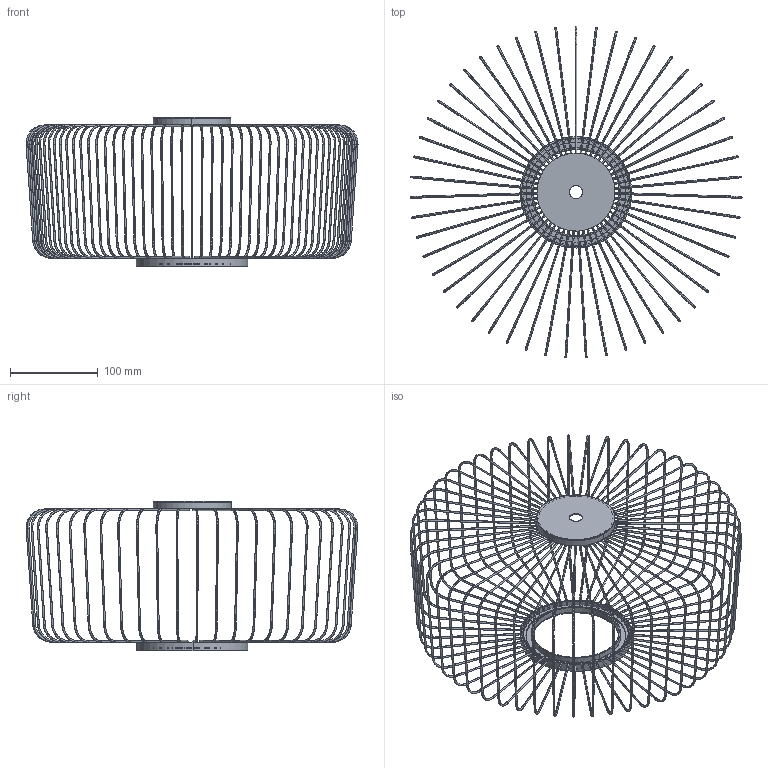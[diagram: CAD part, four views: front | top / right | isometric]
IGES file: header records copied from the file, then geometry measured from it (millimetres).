
Start section: SolidWorks IGES file using analytic representation for surfaces
Global section: file name: Z:\PRODUKT\Modele_3D_WWW\_KOLEKCJE_WWW\_CAMELEON\CAMELEON KENAI\CAMELEON-KENAI-C-12244\NL2500011780.IGS; native system: SolidWorks 2024; preprocessor: SolidWorks 2024; author: anna.bielnik; date: 260313.113612; units: millimetre
Bounding box: 378.68 x 378.5 x 170 mm (x, y, z)
Surface area: 180749.1 mm2 (no closed solid volume)
Topology: 0 solids, 0 shells, 1302 faces, 11364 edges, 11364 vertices
Faces by surface type: revolution 778, bspline 524
